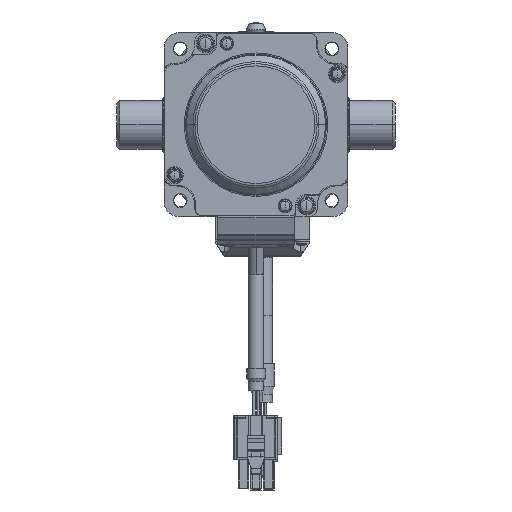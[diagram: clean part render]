
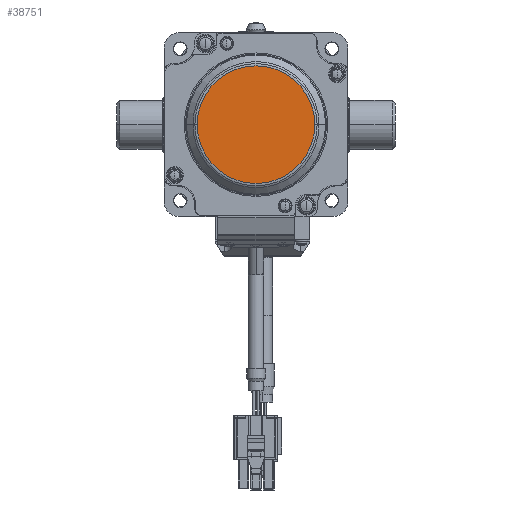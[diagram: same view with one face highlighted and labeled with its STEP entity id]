
A CAD part, front view. The second image highlights one B-rep face of the part: STEP entity #38751.
In plain terms, the highlighted planar face has unit normal (0, -1, 0) as drawn and (-1, 0, 0) by its records, which use the part's own axes.
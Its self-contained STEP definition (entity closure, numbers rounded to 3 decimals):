
#31493=CARTESIAN_POINT('',(-67.5,0.,0.));
#31494=DIRECTION('',(-1.,0.,0.));
#31495=DIRECTION('',(0.,0.,-1.));
#31496=AXIS2_PLACEMENT_3D('',#31493,#31494,#31495);
#31498=CARTESIAN_POINT('',(-67.5,0.,0.));
#31499=DIRECTION('',(-1.,0.,0.));
#31500=DIRECTION('',(0.,0.,1.));
#31501=AXIS2_PLACEMENT_3D('',#31498,#31499,#31500);
#32931=CARTESIAN_POINT('',(-67.5,0.,-19.191));
#32933=VERTEX_POINT('',#32931);
#32937=CARTESIAN_POINT('',(-67.5,0.,19.191));
#32938=VERTEX_POINT('',#32937);
#38741=CARTESIAN_POINT('',(-67.5,-17.,27.));
#38742=DIRECTION('',(1.,0.,0.));
#38743=DIRECTION('',(0.,0.,-1.));
#38744=AXIS2_PLACEMENT_3D('',#38741,#38742,#38743);
#38745=PLANE('',#38744);
#38746=ORIENTED_EDGE('',*,*,#38731,.F.);
#38748=ORIENTED_EDGE('',*,*,#38747,.F.);
#38749=EDGE_LOOP('',(#38746,#38748));
#38750=FACE_OUTER_BOUND('',#38749,.F.);
#38751=ADVANCED_FACE('',(#38750),#38745,.F.);
#31497=CIRCLE('',#31496,19.191);
#31502=CIRCLE('',#31501,19.191);
#38731=EDGE_CURVE('',#32933,#32938,#31497,.T.);
#38747=EDGE_CURVE('',#32938,#32933,#31502,.T.);
